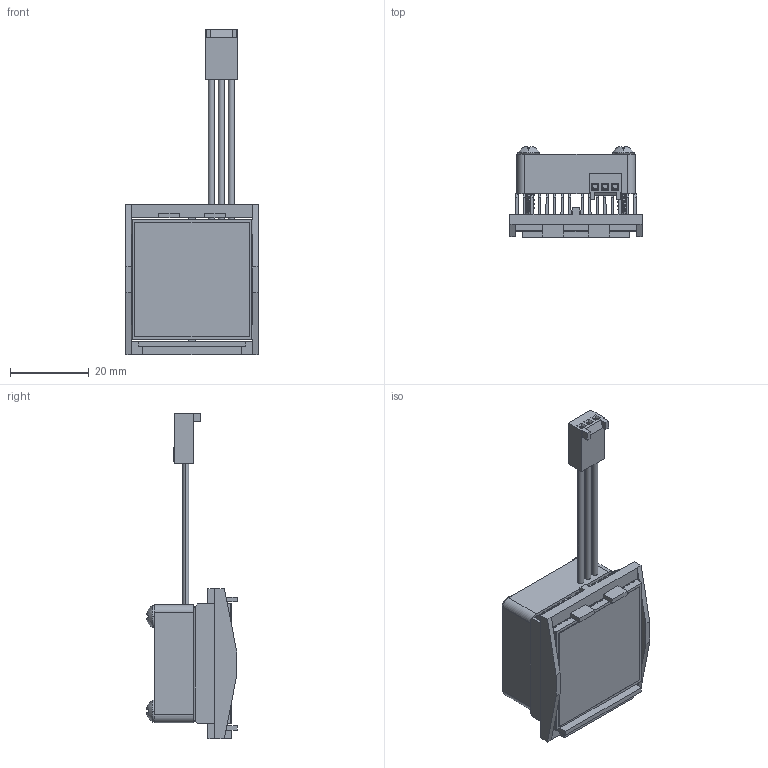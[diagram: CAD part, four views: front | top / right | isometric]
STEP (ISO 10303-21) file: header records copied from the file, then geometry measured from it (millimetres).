
FILE_DESCRIPTION (( 'STEP AP214' ), '1' );
FILE_NAME ('FI31-1.4+BU.STEP', '2023-03-07T19:11:00', ( '' ), ( '' ), 'SwSTEP 2.0', 'SolidWorks 2020', '' );
FILE_SCHEMA (( 'AUTOMOTIVE_DESIGN' ));
Length unit declared in the file: millimetre
Products named in the file (1): FI31-1.4+BU
Bounding box: 33.6 x 23.03 x 82.69 mm (x, y, z)
Volume: 10344.8 mm3; surface area: 20118.3 mm2
Topology: 8 solids, 8 shells, 832 faces, 2389 edges, 1580 vertices
Faces by surface type: plane 329, cylinder 305, bspline 154, cone 44
Entity records: 44120 total; most frequent: CARTESIAN_POINT 15848, ORIENTED_EDGE 4778, DIRECTION 3123, EDGE_CURVE 2389, VERTEX_POINT 1580, LINE 1233, VECTOR 1233, AXIS2_PLACEMENT_3D 945
